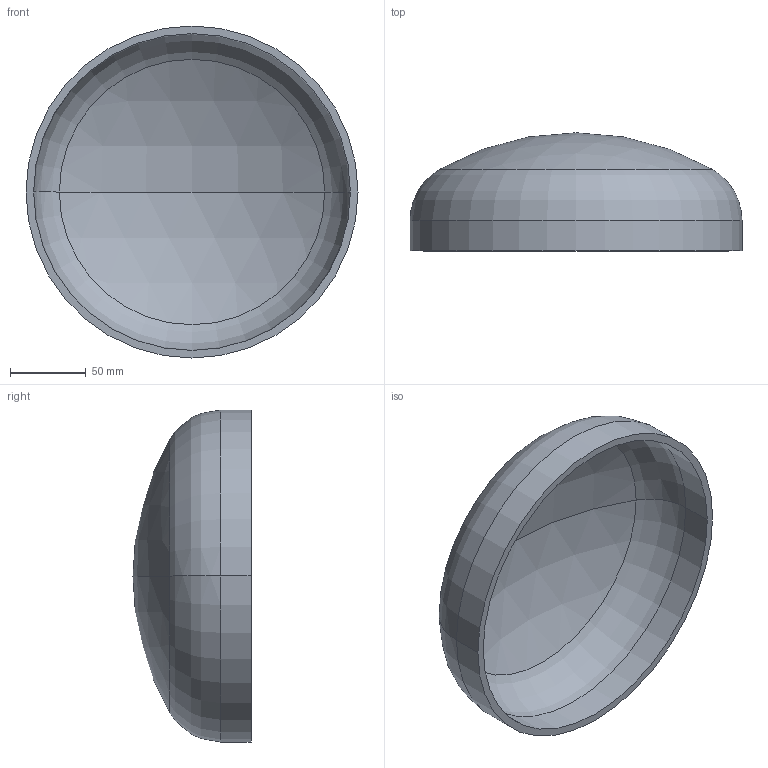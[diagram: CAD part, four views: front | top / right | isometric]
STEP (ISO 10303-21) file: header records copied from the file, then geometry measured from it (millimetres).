
FILE_DESCRIPTION (( 'STEP AP203' ), '1' );
FILE_NAME ('DIN 28013 Korbbogenform_-_Boden DIN 28013 - 219,1 x 20 - I - s=5.step', '2016-07-01T07:42:22', ( '' ), ( '' ), 'SwSTEP 2.0', 'SolidWorks 2013', '' );
FILE_SCHEMA (( 'CONFIG_CONTROL_DESIGN' ));
Length unit declared in the file: millimetre
Products named in the file (1): DIN 28013 Korbbogenform_-_Boden DIN 28013 - 219,1 x 20 - I - s=5
Bounding box: 219.1 x 77.92 x 219.1 mm (x, y, z)
Volume: 321058.7 mm3; surface area: 131838.9 mm2
Topology: 1 solids, 1 shells, 13 faces, 24 edges, 14 vertices
Faces by surface type: torus 4, cylinder 4, sphere 4, plane 1
Entity records: 407 total; most frequent: DIRECTION 72, CARTESIAN_POINT 52, ORIENTED_EDGE 48, AXIS2_PLACEMENT_3D 34, EDGE_CURVE 24, CIRCLE 20, EDGE_LOOP 14, VERTEX_POINT 14
